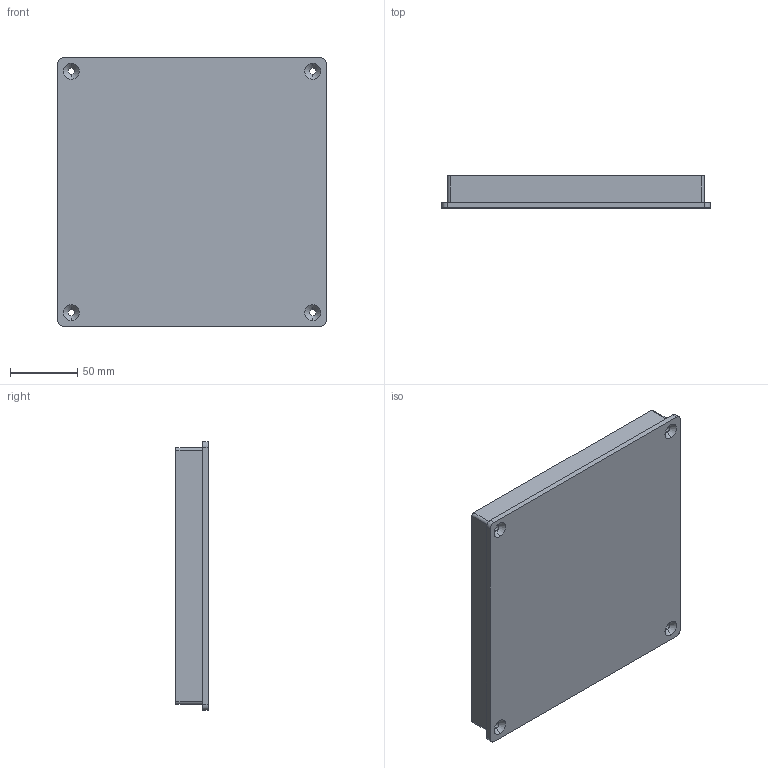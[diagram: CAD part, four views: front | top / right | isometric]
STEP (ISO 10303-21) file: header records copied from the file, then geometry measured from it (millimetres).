
FILE_DESCRIPTION (( 'STEP AP203' ), '1' );
FILE_NAME ('STL-Sockel.STEP', '2020-10-10T10:05:20', ( '' ), ( '' ), 'SwSTEP 2.0', 'SolidWorks 2018', '' );
FILE_SCHEMA (( 'CONFIG_CONTROL_DESIGN' ));
Length unit declared in the file: millimetre
Products named in the file (1): STL-Sockel
Bounding box: 200 x 24 x 200 mm (x, y, z)
Volume: 206531 mm3; surface area: 114396.6 mm2
Topology: 1 solids, 1 shells, 46 faces, 118 edges, 76 vertices
Faces by surface type: cylinder 22, plane 16, cone 8
Entity records: 1503 total; most frequent: DIRECTION 264, CARTESIAN_POINT 241, ORIENTED_EDGE 236, EDGE_CURVE 118, AXIS2_PLACEMENT_3D 99, VERTEX_POINT 76, LINE 66, VECTOR 66
